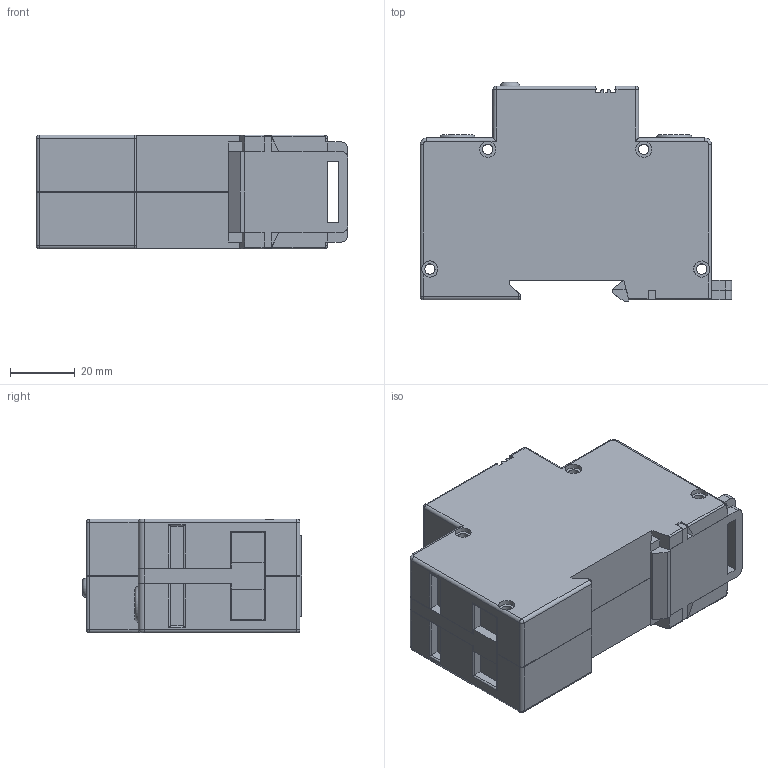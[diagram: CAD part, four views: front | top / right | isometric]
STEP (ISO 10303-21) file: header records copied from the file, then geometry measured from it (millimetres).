
FILE_DESCRIPTION(/* description */ (''),/* implementation_level */ '2;1');
FILE_NAME(/* name */ 'K:\PROJEKTY ROZPRACOVANÉ\MODELY DO KATALOGU\HS, HLA\3D - STEP\HLA50 1+0 LED.stp',/* time_stamp */ '2020-08-04T09:19:00+02:00',/* author */ ('M Koliska'),/* organization */ (''),/* preprocessor_version */ 'ST-DEVELOPER v18.1',/* originating_system */ 'Autodesk Inventor 2021',/* authorisation */ '');
FILE_SCHEMA (('AUTOMOTIVE_DESIGN { 1 0 10303 214 3 1 1 }'));
Length unit declared in the file: millimetre
Products named in the file (3): HLA LED; HLA LED_1; DIN 7985 (H) - M6x10-H
Assembly tree (3 placements, depth 2):
  HLA LED
    HLA LED_1
    DIN 7985 (H) - M6x10-H  x2
Bounding box: 96.3 x 67.7 x 35.2 mm (x, y, z)
Volume: 174452.8 mm3; surface area: 26317.6 mm2
Topology: 3 solids, 4 shells, 451 faces, 1218 edges, 771 vertices
Faces by surface type: plane 299, cylinder 99, cone 32, sphere 8, bspline 8, torus 5
Full cylindrical faces by diameter (mm): 3.2 x4, 5 x8, 5.5 x2, 6 x2, 8 x2
Entity records: 13041 total; most frequent: CARTESIAN_POINT 2385, ORIENTED_EDGE 2228, DIRECTION 2171, EDGE_CURVE 1114, LINE 827, VECTOR 827, VERTEX_POINT 702, AXIS2_PLACEMENT_3D 672
